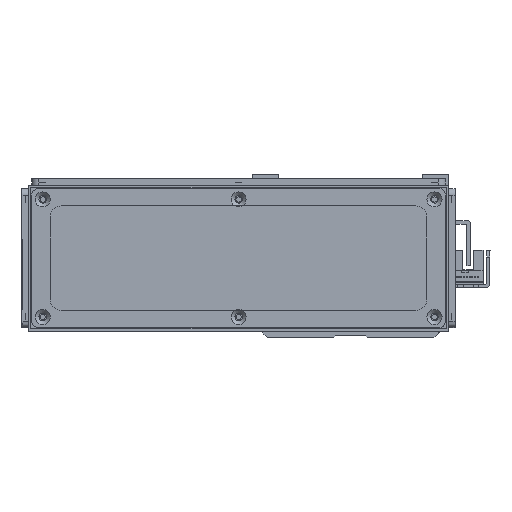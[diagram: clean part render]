
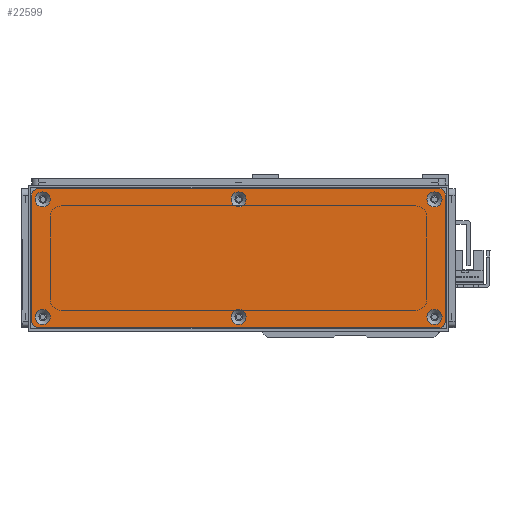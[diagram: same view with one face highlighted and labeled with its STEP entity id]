
A CAD part, left-side view. The second image highlights one B-rep face of the part: STEP entity #22599.
In plain terms, the highlighted planar face has unit normal (-1, 0, 0) as drawn and (0, 0, 1) by its records, which use the part's own axes.
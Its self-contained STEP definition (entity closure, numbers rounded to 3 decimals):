
#794=FACE_BOUND('',#4787,.T.);
#795=FACE_BOUND('',#4788,.T.);
#796=FACE_BOUND('',#4789,.T.);
#797=FACE_BOUND('',#4790,.T.);
#798=FACE_BOUND('',#4791,.T.);
#799=FACE_BOUND('',#4792,.T.);
#1358=PLANE('',#25391);
#3121=FACE_OUTER_BOUND('',#4786,.T.);
#4786=EDGE_LOOP('',(#21180,#21181,#21182,#21183,#21184,#21185,#21186,#21187));
#4787=EDGE_LOOP('',(#21188));
#4788=EDGE_LOOP('',(#21189));
#4789=EDGE_LOOP('',(#21190));
#4790=EDGE_LOOP('',(#21191));
#4791=EDGE_LOOP('',(#21192));
#4792=EDGE_LOOP('',(#21193));
#6667=LINE('',#39398,#8545);
#6670=LINE('',#39406,#8548);
#6673=LINE('',#39414,#8551);
#6676=LINE('',#39421,#8554);
#8545=VECTOR('',#32059,10.);
#8548=VECTOR('',#32068,10.);
#8551=VECTOR('',#32077,10.);
#8554=VECTOR('',#32086,10.);
#9719=CIRCLE('',#25345,3.45);
#9722=CIRCLE('',#25350,3.45);
#9725=CIRCLE('',#25355,3.45);
#9728=CIRCLE('',#25360,3.45);
#9731=CIRCLE('',#25365,3.45);
#9734=CIRCLE('',#25370,3.45);
#9741=CIRCLE('',#25380,3.);
#9742=CIRCLE('',#25383,3.);
#9743=CIRCLE('',#25386,3.);
#9744=CIRCLE('',#25389,3.);
#11796=VERTEX_POINT('',#39314);
#11799=VERTEX_POINT('',#39324);
#11802=VERTEX_POINT('',#39334);
#11805=VERTEX_POINT('',#39344);
#11808=VERTEX_POINT('',#39354);
#11811=VERTEX_POINT('',#39364);
#11822=VERTEX_POINT('',#39391);
#11823=VERTEX_POINT('',#39393);
#11824=VERTEX_POINT('',#39397);
#11825=VERTEX_POINT('',#39401);
#11826=VERTEX_POINT('',#39405);
#11827=VERTEX_POINT('',#39409);
#11828=VERTEX_POINT('',#39413);
#11829=VERTEX_POINT('',#39417);
#14902=EDGE_CURVE('',#11796,#11796,#9719,.T.);
#14907=EDGE_CURVE('',#11799,#11799,#9722,.T.);
#14912=EDGE_CURVE('',#11802,#11802,#9725,.T.);
#14917=EDGE_CURVE('',#11805,#11805,#9728,.T.);
#14922=EDGE_CURVE('',#11808,#11808,#9731,.T.);
#14927=EDGE_CURVE('',#11811,#11811,#9734,.T.);
#14941=EDGE_CURVE('',#11823,#11822,#9741,.T.);
#14943=EDGE_CURVE('',#11824,#11823,#6667,.T.);
#14945=EDGE_CURVE('',#11825,#11824,#9742,.T.);
#14947=EDGE_CURVE('',#11826,#11825,#6670,.T.);
#14949=EDGE_CURVE('',#11827,#11826,#9743,.T.);
#14951=EDGE_CURVE('',#11828,#11827,#6673,.T.);
#14953=EDGE_CURVE('',#11829,#11828,#9744,.T.);
#14955=EDGE_CURVE('',#11822,#11829,#6676,.T.);
#21180=ORIENTED_EDGE('',*,*,#14955,.T.);
#21181=ORIENTED_EDGE('',*,*,#14953,.T.);
#21182=ORIENTED_EDGE('',*,*,#14951,.T.);
#21183=ORIENTED_EDGE('',*,*,#14949,.T.);
#21184=ORIENTED_EDGE('',*,*,#14947,.T.);
#21185=ORIENTED_EDGE('',*,*,#14945,.T.);
#21186=ORIENTED_EDGE('',*,*,#14943,.T.);
#21187=ORIENTED_EDGE('',*,*,#14941,.T.);
#21188=ORIENTED_EDGE('',*,*,#14902,.T.);
#21189=ORIENTED_EDGE('',*,*,#14907,.T.);
#21190=ORIENTED_EDGE('',*,*,#14912,.T.);
#21191=ORIENTED_EDGE('',*,*,#14917,.T.);
#21192=ORIENTED_EDGE('',*,*,#14922,.T.);
#21193=ORIENTED_EDGE('',*,*,#14927,.T.);
#22599=ADVANCED_FACE('',(#3121,#794,#795,#796,#797,#798,#799),#1358,.T.);
#25345=AXIS2_PLACEMENT_3D('',#39315,#31967,#31968);
#25350=AXIS2_PLACEMENT_3D('',#39325,#31979,#31980);
#25355=AXIS2_PLACEMENT_3D('',#39335,#31991,#31992);
#25360=AXIS2_PLACEMENT_3D('',#39345,#32003,#32004);
#25365=AXIS2_PLACEMENT_3D('',#39355,#32015,#32016);
#25370=AXIS2_PLACEMENT_3D('',#39365,#32027,#32028);
#25380=AXIS2_PLACEMENT_3D('',#39394,#32054,#32055);
#25383=AXIS2_PLACEMENT_3D('',#39402,#32063,#32064);
#25386=AXIS2_PLACEMENT_3D('',#39410,#32072,#32073);
#25389=AXIS2_PLACEMENT_3D('',#39418,#32081,#32082);
#25391=AXIS2_PLACEMENT_3D('',#39422,#32087,#32088);
#31967=DIRECTION('center_axis',(0.,0.,-1.));
#31968=DIRECTION('ref_axis',(1.,0.,0.));
#31979=DIRECTION('center_axis',(0.,0.,-1.));
#31980=DIRECTION('ref_axis',(1.,0.,0.));
#31991=DIRECTION('center_axis',(0.,0.,-1.));
#31992=DIRECTION('ref_axis',(1.,0.,0.));
#32003=DIRECTION('center_axis',(0.,0.,-1.));
#32004=DIRECTION('ref_axis',(1.,0.,0.));
#32015=DIRECTION('center_axis',(0.,0.,-1.));
#32016=DIRECTION('ref_axis',(1.,0.,0.));
#32027=DIRECTION('center_axis',(0.,0.,-1.));
#32028=DIRECTION('ref_axis',(1.,0.,0.));
#32054=DIRECTION('center_axis',(0.,0.,1.));
#32055=DIRECTION('ref_axis',(0.,1.,0.));
#32059=DIRECTION('',(-1.,0.,0.));
#32063=DIRECTION('center_axis',(0.,0.,1.));
#32064=DIRECTION('ref_axis',(1.,0.,0.));
#32068=DIRECTION('',(0.,1.,0.));
#32072=DIRECTION('center_axis',(0.,0.,1.));
#32073=DIRECTION('ref_axis',(0.,-1.,0.));
#32077=DIRECTION('',(1.,0.,0.));
#32081=DIRECTION('center_axis',(0.,0.,1.));
#32082=DIRECTION('ref_axis',(-1.,0.,0.));
#32086=DIRECTION('',(0.,-1.,0.));
#32087=DIRECTION('center_axis',(0.,0.,1.));
#32088=DIRECTION('ref_axis',(1.,0.,0.));
#39314=CARTESIAN_POINT('',(-3.45,27.,1.5));
#39315=CARTESIAN_POINT('Origin',(0.,27.,1.5));
#39324=CARTESIAN_POINT('',(86.55,-27.,1.5));
#39325=CARTESIAN_POINT('Origin',(90.,-27.,1.5));
#39334=CARTESIAN_POINT('',(-93.45,27.,1.5));
#39335=CARTESIAN_POINT('Origin',(-90.,27.,1.5));
#39344=CARTESIAN_POINT('',(86.55,27.,1.5));
#39345=CARTESIAN_POINT('Origin',(90.,27.,1.5));
#39354=CARTESIAN_POINT('',(-93.45,-27.,1.5));
#39355=CARTESIAN_POINT('Origin',(-90.,-27.,1.5));
#39364=CARTESIAN_POINT('',(-3.45,-27.,1.5));
#39365=CARTESIAN_POINT('Origin',(0.,-27.,1.5));
#39391=CARTESIAN_POINT('',(-95.,29.,1.5));
#39393=CARTESIAN_POINT('',(-92.,32.,1.5));
#39394=CARTESIAN_POINT('Origin',(-92.,29.,1.5));
#39397=CARTESIAN_POINT('',(92.,32.,1.5));
#39398=CARTESIAN_POINT('',(92.,32.,1.5));
#39401=CARTESIAN_POINT('',(95.,29.,1.5));
#39402=CARTESIAN_POINT('Origin',(92.,29.,1.5));
#39405=CARTESIAN_POINT('',(95.,-29.,1.5));
#39406=CARTESIAN_POINT('',(95.,-29.,1.5));
#39409=CARTESIAN_POINT('',(92.,-32.,1.5));
#39410=CARTESIAN_POINT('Origin',(92.,-29.,1.5));
#39413=CARTESIAN_POINT('',(-92.,-32.,1.5));
#39414=CARTESIAN_POINT('',(-92.,-32.,1.5));
#39417=CARTESIAN_POINT('',(-95.,-29.,1.5));
#39418=CARTESIAN_POINT('Origin',(-92.,-29.,1.5));
#39421=CARTESIAN_POINT('',(-95.,29.,1.5));
#39422=CARTESIAN_POINT('Origin',(0.,0.,
1.5));
